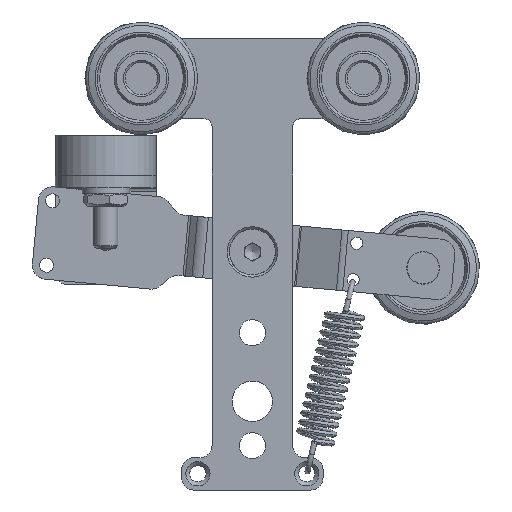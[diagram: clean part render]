
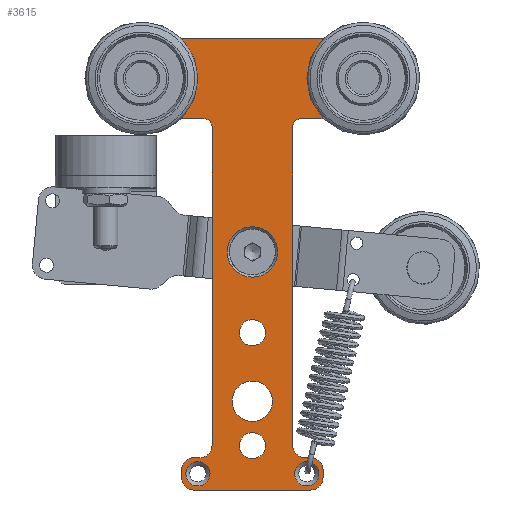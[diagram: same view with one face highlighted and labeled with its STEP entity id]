
A CAD part, front view. The second image highlights one B-rep face of the part: STEP entity #3615.
In plain terms, the highlighted planar face has unit normal (0, -1, 0) as drawn and (0, 0, 1) by its records, which use the part's own axes.
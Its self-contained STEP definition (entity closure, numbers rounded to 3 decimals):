
#348=FACE_BOUND('',#904,.T.);
#349=FACE_BOUND('',#905,.T.);
#350=FACE_BOUND('',#906,.T.);
#351=FACE_BOUND('',#907,.T.);
#352=FACE_BOUND('',#908,.T.);
#353=FACE_BOUND('',#909,.T.);
#354=FACE_BOUND('',#910,.T.);
#355=FACE_BOUND('',#911,.T.);
#472=PLANE('',#3957);
#623=FACE_OUTER_BOUND('',#903,.T.);
#903=EDGE_LOOP('',(#2904,#2905,#2906,#2907,#2908,#2909,#2910,#2911,#2912,
#2913,#2914,#2915,#2916,#2917,#2918,#2919,#2920,#2921,#2922,#2923,#2924,
#2925,#2926,#2927));
#904=EDGE_LOOP('',(#2928));
#905=EDGE_LOOP('',(#2929));
#906=EDGE_LOOP('',(#2930));
#907=EDGE_LOOP('',(#2931));
#908=EDGE_LOOP('',(#2932));
#909=EDGE_LOOP('',(#2933));
#910=EDGE_LOOP('',(#2934));
#911=EDGE_LOOP('',(#2935));
#1276=LINE('',#5865,#1478);
#1277=LINE('',#5869,#1479);
#1278=LINE('',#5873,#1480);
#1279=LINE('',#5875,#1481);
#1280=LINE('',#5877,#1482);
#1281=LINE('',#5879,#1483);
#1282=LINE('',#5881,#1484);
#1283=LINE('',#5883,#1485);
#1284=LINE('',#5885,#1486);
#1285=LINE('',#5887,#1487);
#1286=LINE('',#5889,#1488);
#1287=LINE('',#5893,#1489);
#1288=LINE('',#5897,#1490);
#1289=LINE('',#5901,#1491);
#1290=LINE('',#5905,#1492);
#1291=LINE('',#5908,#1493);
#1478=VECTOR('',#4700,1.5);
#1479=VECTOR('',#4703,79.);
#1480=VECTOR('',#4706,20.);
#1481=VECTOR('',#4707,4.243);
#1482=VECTOR('',#4708,14.);
#1483=VECTOR('',#4709,4.243);
#1484=VECTOR('',#4710,64.);
#1485=VECTOR('',#4711,4.243);
#1486=VECTOR('',#4712,14.);
#1487=VECTOR('',#4713,4.243);
#1488=VECTOR('',#4714,20.);
#1489=VECTOR('',#4717,79.);
#1490=VECTOR('',#4720,1.5);
#1491=VECTOR('',#4723,2.);
#1492=VECTOR('',#4726,29.);
#1493=VECTOR('',#4729,2.);
#1656=CIRCLE('',#3956,3.);
#1657=CIRCLE('',#3958,3.);
#1658=CIRCLE('',#3959,3.);
#1659=CIRCLE('',#3960,2.);
#1660=CIRCLE('',#3961,2.);
#1661=CIRCLE('',#3962,3.);
#1662=CIRCLE('',#3963,3.);
#1663=CIRCLE('',#3964,3.);
#1664=CIRCLE('',#3965,3.);
#1665=CIRCLE('',#3966,3.);
#1666=CIRCLE('',#3967,5.);
#1667=CIRCLE('',#3968,6.25);
#1668=CIRCLE('',#3969,3.25);
#1669=CIRCLE('',#3970,3.25);
#1670=CIRCLE('',#3971,4.05);
#1671=CIRCLE('',#3972,4.05);
#1912=VERTEX_POINT('',#5858);
#1913=VERTEX_POINT('',#5861);
#1914=VERTEX_POINT('',#5862);
#1915=VERTEX_POINT('',#5864);
#1916=VERTEX_POINT('',#5866);
#1917=VERTEX_POINT('',#5868);
#1918=VERTEX_POINT('',#5870);
#1919=VERTEX_POINT('',#5872);
#1920=VERTEX_POINT('',#5874);
#1921=VERTEX_POINT('',#5876);
#1922=VERTEX_POINT('',#5878);
#1923=VERTEX_POINT('',#5880);
#1924=VERTEX_POINT('',#5882);
#1925=VERTEX_POINT('',#5884);
#1926=VERTEX_POINT('',#5886);
#1927=VERTEX_POINT('',#5888);
#1928=VERTEX_POINT('',#5890);
#1929=VERTEX_POINT('',#5892);
#1930=VERTEX_POINT('',#5894);
#1931=VERTEX_POINT('',#5896);
#1932=VERTEX_POINT('',#5898);
#1933=VERTEX_POINT('',#5900);
#1934=VERTEX_POINT('',#5902);
#1935=VERTEX_POINT('',#5904);
#1936=VERTEX_POINT('',#5906);
#1937=VERTEX_POINT('',#5909);
#1938=VERTEX_POINT('',#5911);
#1939=VERTEX_POINT('',#5913);
#1940=VERTEX_POINT('',#5915);
#1941=VERTEX_POINT('',#5917);
#1942=VERTEX_POINT('',#5919);
#1943=VERTEX_POINT('',#5921);
#2296=EDGE_CURVE('',#1912,#1912,#1656,.T.);
#2297=EDGE_CURVE('',#1913,#1914,#1657,.T.);
#2298=EDGE_CURVE('',#1913,#1915,#1276,.T.);
#2299=EDGE_CURVE('',#1916,#1915,#1658,.T.);
#2300=EDGE_CURVE('',#1916,#1917,#1277,.T.);
#2301=EDGE_CURVE('',#1918,#1917,#1659,.T.);
#2302=EDGE_CURVE('',#1918,#1919,#1278,.T.);
#2303=EDGE_CURVE('',#1920,#1919,#1279,.T.);
#2304=EDGE_CURVE('',#1920,#1921,#1280,.T.);
#2305=EDGE_CURVE('',#1922,#1921,#1281,.T.);
#2306=EDGE_CURVE('',#1922,#1923,#1282,.T.);
#2307=EDGE_CURVE('',#1924,#1923,#1283,.T.);
#2308=EDGE_CURVE('',#1924,#1925,#1284,.T.);
#2309=EDGE_CURVE('',#1926,#1925,#1285,.T.);
#2310=EDGE_CURVE('',#1926,#1927,#1286,.T.);
#2311=EDGE_CURVE('',#1928,#1927,#1660,.T.);
#2312=EDGE_CURVE('',#1928,#1929,#1287,.T.);
#2313=EDGE_CURVE('',#1930,#1929,#1661,.T.);
#2314=EDGE_CURVE('',#1930,#1931,#1288,.T.);
#2315=EDGE_CURVE('',#1932,#1931,#1662,.T.);
#2316=EDGE_CURVE('',#1932,#1933,#1289,.T.);
#2317=EDGE_CURVE('',#1934,#1933,#1663,.T.);
#2318=EDGE_CURVE('',#1934,#1935,#1290,.T.);
#2319=EDGE_CURVE('',#1936,#1935,#1664,.T.);
#2320=EDGE_CURVE('',#1936,#1914,#1291,.T.);
#2321=EDGE_CURVE('',#1937,#1937,#1665,.T.);
#2322=EDGE_CURVE('',#1938,#1938,#1666,.T.);
#2323=EDGE_CURVE('',#1939,#1939,#1667,.T.);
#2324=EDGE_CURVE('',#1940,#1940,#1668,.T.);
#2325=EDGE_CURVE('',#1941,#1941,#1669,.T.);
#2326=EDGE_CURVE('',#1942,#1942,#1670,.T.);
#2327=EDGE_CURVE('',#1943,#1943,#1671,.T.);
#2904=ORIENTED_EDGE('',*,*,#2297,.F.);
#2905=ORIENTED_EDGE('',*,*,#2298,.T.);
#2906=ORIENTED_EDGE('',*,*,#2299,.F.);
#2907=ORIENTED_EDGE('',*,*,#2300,.T.);
#2908=ORIENTED_EDGE('',*,*,#2301,.F.);
#2909=ORIENTED_EDGE('',*,*,#2302,.T.);
#2910=ORIENTED_EDGE('',*,*,#2303,.F.);
#2911=ORIENTED_EDGE('',*,*,#2304,.T.);
#2912=ORIENTED_EDGE('',*,*,#2305,.F.);
#2913=ORIENTED_EDGE('',*,*,#2306,.T.);
#2914=ORIENTED_EDGE('',*,*,#2307,.F.);
#2915=ORIENTED_EDGE('',*,*,#2308,.T.);
#2916=ORIENTED_EDGE('',*,*,#2309,.F.);
#2917=ORIENTED_EDGE('',*,*,#2310,.T.);
#2918=ORIENTED_EDGE('',*,*,#2311,.F.);
#2919=ORIENTED_EDGE('',*,*,#2312,.T.);
#2920=ORIENTED_EDGE('',*,*,#2313,.F.);
#2921=ORIENTED_EDGE('',*,*,#2314,.T.);
#2922=ORIENTED_EDGE('',*,*,#2315,.F.);
#2923=ORIENTED_EDGE('',*,*,#2316,.T.);
#2924=ORIENTED_EDGE('',*,*,#2317,.F.);
#2925=ORIENTED_EDGE('',*,*,#2318,.T.);
#2926=ORIENTED_EDGE('',*,*,#2319,.F.);
#2927=ORIENTED_EDGE('',*,*,#2320,.T.);
#2928=ORIENTED_EDGE('',*,*,#2321,.F.);
#2929=ORIENTED_EDGE('',*,*,#2322,.T.);
#2930=ORIENTED_EDGE('',*,*,#2323,.T.);
#2931=ORIENTED_EDGE('',*,*,#2324,.T.);
#2932=ORIENTED_EDGE('',*,*,#2325,.T.);
#2933=ORIENTED_EDGE('',*,*,#2326,.T.);
#2934=ORIENTED_EDGE('',*,*,#2327,.T.);
#2935=ORIENTED_EDGE('',*,*,#2296,.F.);
#3615=ADVANCED_FACE('',(#623,#348,#349,#350,#351,#352,#353,#354,#355),#472,
 .T.);
#3956=AXIS2_PLACEMENT_3D('',#5859,#4694,#4695);
#3957=AXIS2_PLACEMENT_3D('',#5860,#4696,#4697);
#3958=AXIS2_PLACEMENT_3D('',#5863,#4698,#4699);
#3959=AXIS2_PLACEMENT_3D('',#5867,#4701,#4702);
#3960=AXIS2_PLACEMENT_3D('',#5871,#4704,#4705);
#3961=AXIS2_PLACEMENT_3D('',#5891,#4715,#4716);
#3962=AXIS2_PLACEMENT_3D('',#5895,#4718,#4719);
#3963=AXIS2_PLACEMENT_3D('',#5899,#4721,#4722);
#3964=AXIS2_PLACEMENT_3D('',#5903,#4724,#4725);
#3965=AXIS2_PLACEMENT_3D('',#5907,#4727,#4728);
#3966=AXIS2_PLACEMENT_3D('',#5910,#4730,#4731);
#3967=AXIS2_PLACEMENT_3D('',#5912,#4732,#4733);
#3968=AXIS2_PLACEMENT_3D('',#5914,#4734,#4735);
#3969=AXIS2_PLACEMENT_3D('',#5916,#4736,#4737);
#3970=AXIS2_PLACEMENT_3D('',#5918,#4738,#4739);
#3971=AXIS2_PLACEMENT_3D('',#5920,#4740,#4741);
#3972=AXIS2_PLACEMENT_3D('',#5922,#4742,#4743);
#4694=DIRECTION('center_axis',(0.,0.,1.));
#4695=DIRECTION('ref_axis',(-1.,0.,0.));
#4696=DIRECTION('center_axis',(0.,0.,1.));
#4697=DIRECTION('ref_axis',(1.,0.,0.));
#4698=DIRECTION('center_axis',(0.,0.,-1.));
#4699=DIRECTION('ref_axis',(0.707,0.707,0.));
#4700=DIRECTION('',(-1.,0.,0.));
#4701=DIRECTION('center_axis',(0.,0.,1.));
#4702=DIRECTION('ref_axis',(-0.707,-0.707,0.));
#4703=DIRECTION('',(0.,1.,0.));
#4704=DIRECTION('center_axis',(0.,0.,1.));
#4705=DIRECTION('ref_axis',(-0.707,0.707,0.));
#4706=DIRECTION('',(1.,0.,0.));
#4707=DIRECTION('',(-0.707,-0.707,0.));
#4708=DIRECTION('',(0.,1.,0.));
#4709=DIRECTION('',(0.707,-0.707,0.));
#4710=DIRECTION('',(-1.,0.,0.));
#4711=DIRECTION('',(0.707,0.707,0.));
#4712=DIRECTION('',(0.,-1.,0.));
#4713=DIRECTION('',(-0.707,0.707,0.));
#4714=DIRECTION('',(1.,0.,0.));
#4715=DIRECTION('center_axis',(0.,0.,1.));
#4716=DIRECTION('ref_axis',(0.707,0.707,0.));
#4717=DIRECTION('',(0.,-1.,0.));
#4718=DIRECTION('center_axis',(0.,0.,1.));
#4719=DIRECTION('ref_axis',(0.707,-0.707,0.));
#4720=DIRECTION('',(-1.,0.,0.));
#4721=DIRECTION('center_axis',(0.,0.,-1.));
#4722=DIRECTION('ref_axis',(-0.707,0.707,0.));
#4723=DIRECTION('',(0.,-1.,0.));
#4724=DIRECTION('center_axis',(0.,0.,-1.));
#4725=DIRECTION('ref_axis',(-0.707,-0.707,0.));
#4726=DIRECTION('',(1.,0.,0.));
#4727=DIRECTION('center_axis',(0.,0.,-1.));
#4728=DIRECTION('ref_axis',(0.707,-0.707,0.));
#4729=DIRECTION('',(0.,1.,0.));
#4730=DIRECTION('center_axis',(0.,0.,1.));
#4731=DIRECTION('ref_axis',(-1.,0.,0.));
#4732=DIRECTION('center_axis',(0.,0.,-1.));
#4733=DIRECTION('ref_axis',(1.,0.,0.));
#4734=DIRECTION('center_axis',(0.,0.,-1.));
#4735=DIRECTION('ref_axis',(1.,0.,0.));
#4736=DIRECTION('center_axis',(0.,0.,-1.));
#4737=DIRECTION('ref_axis',(1.,0.,0.));
#4738=DIRECTION('center_axis',(0.,0.,-1.));
#4739=DIRECTION('ref_axis',(1.,0.,0.));
#4740=DIRECTION('center_axis',(0.,0.,-1.));
#4741=DIRECTION('ref_axis',(1.,0.,0.));
#4742=DIRECTION('center_axis',(0.,0.,-1.));
#4743=DIRECTION('ref_axis',(1.,0.,0.));
#5858=CARTESIAN_POINT('',(16.5,-55.,0.));
#5859=CARTESIAN_POINT('Origin',(13.5,-55.,0.));
#5860=CARTESIAN_POINT('Origin',(0.,15.995,0.));
#5861=CARTESIAN_POINT('',(14.5,-51.,0.));
#5862=CARTESIAN_POINT('',(17.5,-54.,0.));
#5863=CARTESIAN_POINT('Origin',(14.5,-54.,0.));
#5864=CARTESIAN_POINT('',(13.,-51.,0.));
#5865=CARTESIAN_POINT('',(17.5,-51.,0.));
#5866=CARTESIAN_POINT('',(10.,-48.,0.));
#5867=CARTESIAN_POINT('Origin',(13.,-48.,0.));
#5868=CARTESIAN_POINT('',(10.,31.,0.));
#5869=CARTESIAN_POINT('',(10.,-51.,0.));
#5870=CARTESIAN_POINT('',(12.,33.,0.));
#5871=CARTESIAN_POINT('Origin',(12.,31.,0.));
#5872=CARTESIAN_POINT('',(32.,33.,0.));
#5873=CARTESIAN_POINT('',(10.,33.,0.));
#5874=CARTESIAN_POINT('',(35.,36.,0.));
#5875=CARTESIAN_POINT('',(20.499,21.499,0.));
#5876=CARTESIAN_POINT('',(35.,50.,0.));
#5877=CARTESIAN_POINT('',(35.,33.,0.));
#5878=CARTESIAN_POINT('',(32.,53.,0.));
#5879=CARTESIAN_POINT('',(34.001,50.999,0.));
#5880=CARTESIAN_POINT('',(-32.,53.,0.));
#5881=CARTESIAN_POINT('',(35.,53.,0.));
#5882=CARTESIAN_POINT('',(-35.,50.,0.));
#5883=CARTESIAN_POINT('',(-34.001,50.999,0.));
#5884=CARTESIAN_POINT('',(-35.,36.,0.));
#5885=CARTESIAN_POINT('',(-35.,53.,0.));
#5886=CARTESIAN_POINT('',(-32.,33.,0.));
#5887=CARTESIAN_POINT('',(-20.499,21.499,0.));
#5888=CARTESIAN_POINT('',(-12.,33.,0.));
#5889=CARTESIAN_POINT('',(-35.,33.,0.));
#5890=CARTESIAN_POINT('',(-10.,31.,0.));
#5891=CARTESIAN_POINT('Origin',(-12.,31.,0.));
#5892=CARTESIAN_POINT('',(-10.,-48.,0.));
#5893=CARTESIAN_POINT('',(-10.,33.,0.));
#5894=CARTESIAN_POINT('',(-13.,-51.,0.));
#5895=CARTESIAN_POINT('Origin',(-13.,-48.,0.));
#5896=CARTESIAN_POINT('',(-14.5,-51.,0.));
#5897=CARTESIAN_POINT('',(-10.,-51.,0.));
#5898=CARTESIAN_POINT('',(-17.5,-54.,0.));
#5899=CARTESIAN_POINT('Origin',(-14.5,-54.,0.));
#5900=CARTESIAN_POINT('',(-17.5,-56.,0.));
#5901=CARTESIAN_POINT('',(-17.5,-51.,0.));
#5902=CARTESIAN_POINT('',(-14.5,-59.,0.));
#5903=CARTESIAN_POINT('Origin',(-14.5,-56.,0.));
#5904=CARTESIAN_POINT('',(14.5,-59.,0.));
#5905=CARTESIAN_POINT('',(-17.5,-59.,0.));
#5906=CARTESIAN_POINT('',(17.5,-56.,0.));
#5907=CARTESIAN_POINT('Origin',(14.5,-56.,0.));
#5908=CARTESIAN_POINT('',(17.5,-59.,0.));
#5909=CARTESIAN_POINT('',(-10.5,-55.,0.));
#5910=CARTESIAN_POINT('Origin',(-13.5,-55.,0.));
#5911=CARTESIAN_POINT('',(5.,-37.,0.));
#5912=CARTESIAN_POINT('Origin',(0.,-37.,0.));
#5913=CARTESIAN_POINT('',(6.25,0.,0.));
#5914=CARTESIAN_POINT('Origin',(0.,0.,0.));
#5915=CARTESIAN_POINT('',(3.25,-20.,0.));
#5916=CARTESIAN_POINT('Origin',(0.,-20.,0.));
#5917=CARTESIAN_POINT('',(3.25,-48.,0.));
#5918=CARTESIAN_POINT('Origin',(0.,-48.,0.));
#5919=CARTESIAN_POINT('',(-23.45,43.,0.));
#5920=CARTESIAN_POINT('Origin',(-27.5,43.,0.));
#5921=CARTESIAN_POINT('',(31.55,43.,0.));
#5922=CARTESIAN_POINT('Origin',(27.5,43.,0.));
